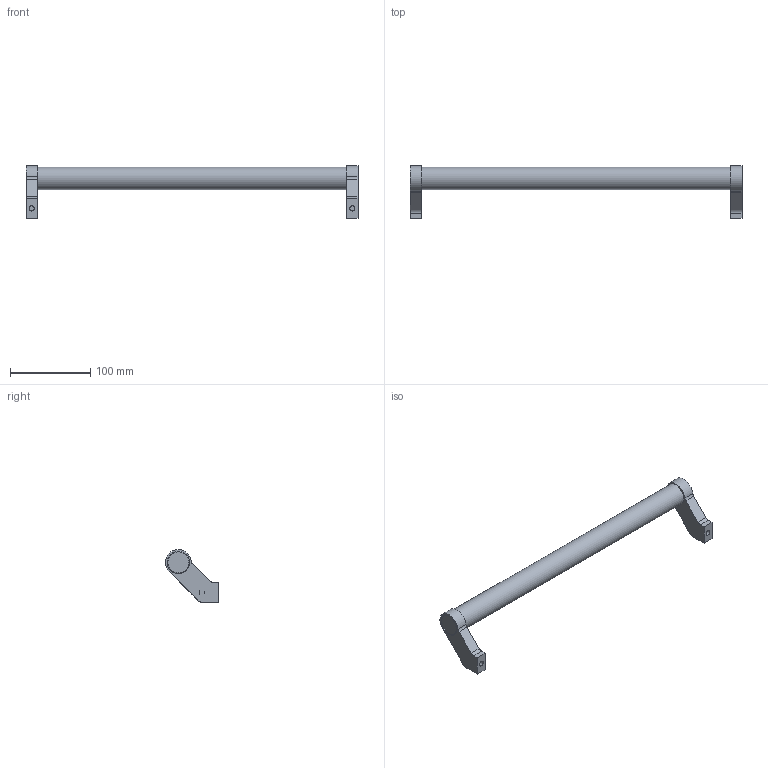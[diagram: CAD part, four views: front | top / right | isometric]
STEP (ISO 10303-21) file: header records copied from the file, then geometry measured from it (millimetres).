
FILE_DESCRIPTION( ( 'STEP AP203' ), '1' );
FILE_NAME( 'C:/Temp/Ganter_Step_05_03_2020/data/1_2/gn333/Tubular handle GN 333-28-400-B-ES.stp', '2020-03-05T10:16:33', ( 'License CC BY-ND 4.0' ), ( 'CADENAS' ), ' ', 'PARTsolutions', ' ' );
FILE_SCHEMA( ( 'CONFIG_CONTROL_DESIGN' ) );
Length unit declared in the file: millimetre
Products named in the file (1): _Tubular handle GN 333-28-400-B-ES
Bounding box: 414 x 65.95 x 65.97 mm (x, y, z)
Volume: 296977.9 mm3; surface area: 50812.6 mm2
Topology: 1 solids, 1 shells, 53 faces, 115 edges, 76 vertices
Faces by surface type: plane 32, cylinder 19, torus 2
Full cylindrical faces by diameter (mm): 6.5 x2, 11 x2, 11.4 x2, 12 x2, 28 x3
Entity records: 1424 total; most frequent: CARTESIAN_POINT 272, DIRECTION 240, ORIENTED_EDGE 196, EDGE_CURVE 98, AXIS2_PLACEMENT_3D 96, EDGE_LOOP 76, VERTEX_POINT 70, FACE_OUTER_BOUND 64
